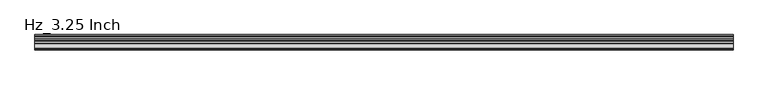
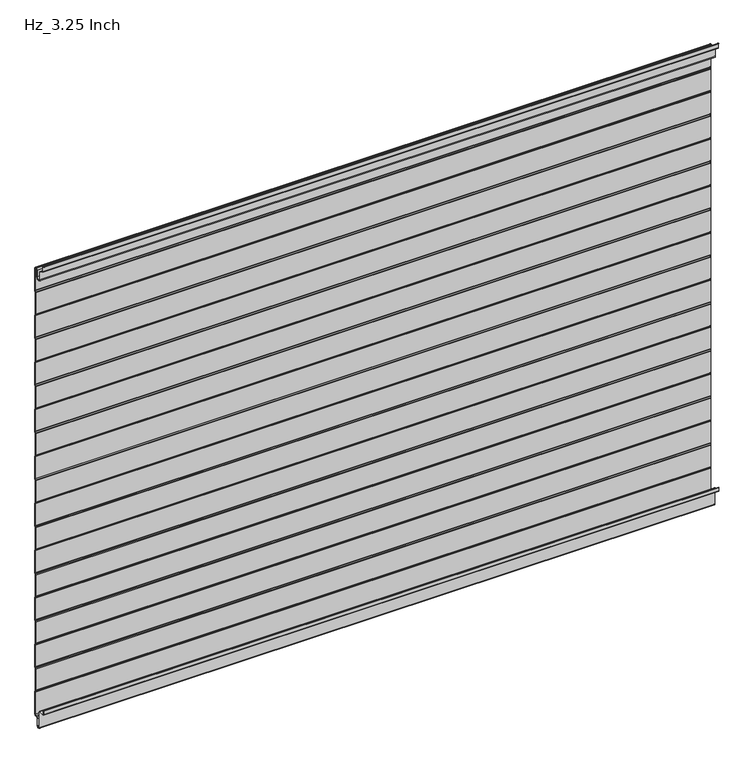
"""IFC4 building model written with IfcOpenShell, lengths in millimetres: plate geometry, KIP_R19_CP_KingSeam_Hz_Roof Panel : Hz_3.25 Inch."""

from ifc_helpers import new_model, si_unit, point, frame, frame_2d, origin, place, context, project, spatial, polyline, circle_curve, trimmed, segment, composite_curve, outline, extrude, source, transform, mapped, element, save


def hz_3_25_inch_be8fa6c4(model_context):
    return source(origin(), model_context, "Body", "SweptSolid", [
        extrude(outline(composite_curve([segment(polyline([(-32.0, 1.9842001), (-32.0, 9.4842001), (-31.2, 9.4842001), (-31.2, 1.9842001)]), True, "CONTINUOUS"), segment(trimmed(circle_curve(frame_2d((-29.7, 1.9842001)), 1.5), [point((-31.2, 1.9842001))], [point((-29.7, 0.4842001))], True, "CARTESIAN"), True, "CONTINUOUS"), segment(polyline([(-29.7, 0.4842001), (-18.5, 0.4842001)]), True, "CONTINUOUS"), segment(trimmed(circle_curve(frame_2d((-18.5, -1.5157999)), 2.0), [point((-18.5, 0.4842001))], [point((-16.5, -1.5157999))], False, "CARTESIAN"), True, "CONTINUOUS"), segment(polyline([(-16.5, -1.5157999), (-16.5, -37.0157999)]), True, "CONTINUOUS"), segment(trimmed(circle_curve(frame_2d((-14.0, -37.0157999)), 2.5), [point((-16.5, -37.0157999))], [point((-14.0, -39.5157999))], True, "CARTESIAN"), True, "CONTINUOUS"), segment(polyline([(-14.0, -39.5157999), (-12.0, -39.5157999)]), True, "CONTINUOUS"), segment(trimmed(circle_curve(frame_2d((-12.0, -37.0157999)), 2.5), [point((-12.0, -39.5157999))], [point((-9.5, -37.0157999))], True, "CARTESIAN"), True, "CONTINUOUS"), segment(polyline([(-9.5, -37.0157999), (-9.5, -21.3000002)]), True, "CONTINUOUS"), segment(trimmed(circle_curve(frame_2d((-6.5, -21.3000002)), 3.0), [point((-9.5, -21.3000002))], [point((-6.5, -18.3000002))], False, "CARTESIAN"), True, "CONTINUOUS"), segment(polyline([(-6.5, -18.3000002), (-3.0, -18.3000002)]), True, "CONTINUOUS"), segment(trimmed(circle_curve(frame_2d((-2.8161925, -16.2437508)), 2.0644483), [point((-3.0, -18.3000002))], [point((-0.8, -15.8000002))], True, "CARTESIAN"), True, "CONTINUOUS"), segment(polyline([(-0.8, -15.8000002), (-0.8, 33.9573224)]), True, "CONTINUOUS"), segment(trimmed(circle_curve(frame_2d((-3.2, 33.9573224)), 2.4), [point((-0.8, 33.9573224))], [point((-0.9968123, 34.9091437))], True, "CARTESIAN"), True, "CONTINUOUS"), segment(polyline([(-0.9968123, 34.9091437), (-2.0293831, 37.2992429)]), True, "CONTINUOUS"), segment(trimmed(circle_curve(frame_2d((1.0, 38.6079973)), 3.3), [point((-2.0293831, 37.2992429))], [point((-2.3, 38.6079973))], False, "CARTESIAN"), True, "CONTINUOUS"), segment(polyline([(-2.3, 38.6079973), (-2.3, 86.9920024)]), True, "CONTINUOUS"), segment(trimmed(circle_curve(frame_2d((1.0, 86.9920024)), 3.3), [point((-2.3, 86.9920024))], [point((-2.0293831, 88.3007568))], False, "CARTESIAN"), True, "CONTINUOUS"), segment(polyline([(-2.0293831, 88.3007568), (-0.9968123, 90.690856)]), True, "CONTINUOUS"), segment(trimmed(circle_curve(frame_2d((-3.2, 91.6426773)), 2.4), [point((-0.9968123, 90.690856))], [point((-0.8, 91.6426773))], True, "CARTESIAN"), True, "CONTINUOUS"), segment(polyline([(-0.8, 91.6426773), (-0.8, 140.5573224)]), True, "CONTINUOUS"), segment(trimmed(circle_curve(frame_2d((-3.2, 140.5573224)), 2.4), [point((-0.8, 140.5573224))], [point((-0.9968123, 141.5091437))], True, "CARTESIAN"), True, "CONTINUOUS"), segment(polyline([(-0.9968123, 141.5091437), (-2.0293831, 143.8992429)]), True, "CONTINUOUS"), segment(trimmed(circle_curve(frame_2d((1.0, 145.2079973)), 3.3), [point((-2.0293831, 143.8992429))], [point((-2.3, 145.2079973))], False, "CARTESIAN"), True, "CONTINUOUS"), segment(polyline([(-2.3, 145.2079973), (-2.3, 193.5920024)]), True, "CONTINUOUS"), segment(trimmed(circle_curve(frame_2d((1.0, 193.5920024)), 3.3), [point((-2.3, 193.5920024))], [point((-2.0293831, 194.9007568))], False, "CARTESIAN"), True, "CONTINUOUS"), segment(polyline([(-2.0293831, 194.9007568), (-0.9968123, 197.290856)]), True, "CONTINUOUS"), segment(trimmed(circle_curve(frame_2d((-3.2, 198.2426773)), 2.4), [point((-0.9968123, 197.290856))], [point((-0.8, 198.2426773))], True, "CARTESIAN"), True, "CONTINUOUS"), segment(polyline([(-0.8, 198.2426773), (-0.8, 247.1573224)]), True, "CONTINUOUS"), segment(trimmed(circle_curve(frame_2d((-3.2, 247.1573224)), 2.4), [point((-0.8, 247.1573224))], [point((-0.9968123, 248.1091437))], True, "CARTESIAN"), True, "CONTINUOUS"), segment(polyline([(-0.9968123, 248.1091437), (-2.0293831, 250.4992429)]), True, "CONTINUOUS"), segment(trimmed(circle_curve(frame_2d((1.0, 251.8079973)), 3.3), [point((-2.0293831, 250.4992429))], [point((-2.3, 251.8079973))], False, "CARTESIAN"), True, "CONTINUOUS"), segment(polyline([(-2.3, 251.8079973), (-2.3, 300.1920024)]), True, "CONTINUOUS"), segment(trimmed(circle_curve(frame_2d((1.0, 300.1920024)), 3.3), [point((-2.3, 300.1920024))], [point((-2.0293831, 301.5007568))], False, "CARTESIAN"), True, "CONTINUOUS"), segment(polyline([(-2.0293831, 301.5007568), (-0.9968123, 303.890856)]), True, "CONTINUOUS"), segment(trimmed(circle_curve(frame_2d((-3.2, 304.8426773)), 2.4), [point((-0.9968123, 303.890856))], [point((-0.8, 304.8426773))], True, "CARTESIAN"), True, "CONTINUOUS"), segment(polyline([(-0.8, 304.8426773), (-0.8, 353.7573224)]), True, "CONTINUOUS"), segment(trimmed(circle_curve(frame_2d((-3.2, 353.7573224)), 2.4), [point((-0.8, 353.7573224))], [point((-0.9968123, 354.7091437))], True, "CARTESIAN"), True, "CONTINUOUS"), segment(polyline([(-0.9968123, 354.7091437), (-2.0293831, 357.0992429)]), True, "CONTINUOUS"), segment(trimmed(circle_curve(frame_2d((1.0, 358.4079973)), 3.3), [point((-2.0293831, 357.0992429))], [point((-2.3, 358.4079973))], False, "CARTESIAN"), True, "CONTINUOUS"), segment(polyline([(-2.3, 358.4079973), (-2.3, 406.7920024)]), True, "CONTINUOUS"), segment(trimmed(circle_curve(frame_2d((1.0, 406.7920024)), 3.3), [point((-2.3, 406.7920024))], [point((-2.0293831, 408.1007568))], False, "CARTESIAN"), True, "CONTINUOUS"), segment(polyline([(-2.0293831, 408.1007568), (-0.9968123, 410.490856)]), True, "CONTINUOUS"), segment(trimmed(circle_curve(frame_2d((-3.2, 411.4426773)), 2.4), [point((-0.9968123, 410.490856))], [point((-0.8, 411.4426773))], True, "CARTESIAN"), True, "CONTINUOUS"), segment(polyline([(-0.8, 411.4426773), (-0.8, 460.3573224)]), True, "CONTINUOUS"), segment(trimmed(circle_curve(frame_2d((-3.2, 460.3573224)), 2.4), [point((-0.8, 460.3573224))], [point((-0.9968123, 461.3091437))], True, "CARTESIAN"), True, "CONTINUOUS"), segment(polyline([(-0.9968123, 461.3091437), (-2.0293831, 463.6992429)]), True, "CONTINUOUS"), segment(trimmed(circle_curve(frame_2d((1.0, 465.0079973)), 3.3), [point((-2.0293831, 463.6992429))], [point((-2.3, 465.0079973))], False, "CARTESIAN"), True, "CONTINUOUS"), segment(polyline([(-2.3, 465.0079973), (-2.3, 513.3920024)]), True, "CONTINUOUS"), segment(trimmed(circle_curve(frame_2d((1.0, 513.3920024)), 3.3), [point((-2.3, 513.3920024))], [point((-2.0293831, 514.7007568))], False, "CARTESIAN"), True, "CONTINUOUS"), segment(polyline([(-2.0293831, 514.7007568), (-0.9968123, 517.090856)]), True, "CONTINUOUS"), segment(trimmed(circle_curve(frame_2d((-3.2, 518.0426773)), 2.4), [point((-0.9968123, 517.090856))], [point((-0.8, 518.0426773))], True, "CARTESIAN"), True, "CONTINUOUS"), segment(polyline([(-0.8, 518.0426773), (-0.8, 566.9573224)]), True, "CONTINUOUS"), segment(trimmed(circle_curve(frame_2d((-3.2, 566.9573224)), 2.4), [point((-0.8, 566.9573224))], [point((-0.9968123, 567.9091437))], True, "CARTESIAN"), True, "CONTINUOUS"), segment(polyline([(-0.9968123, 567.9091437), (-2.0293831, 570.2992429)]), True, "CONTINUOUS"), segment(trimmed(circle_curve(frame_2d((1.0, 571.6079973)), 3.3), [point((-2.0293831, 570.2992429))], [point((-2.3, 571.6079973))], False, "CARTESIAN"), True, "CONTINUOUS"), segment(polyline([(-2.3, 571.6079973), (-2.3, 619.9920024)]), True, "CONTINUOUS"), segment(trimmed(circle_curve(frame_2d((1.0, 619.9920024)), 3.3), [point((-2.3, 619.9920024))], [point((-2.0293831, 621.3007568))], False, "CARTESIAN"), True, "CONTINUOUS"), segment(polyline([(-2.0293831, 621.3007568), (-0.9968123, 623.690856)]), True, "CONTINUOUS"), segment(trimmed(circle_curve(frame_2d((-3.2, 624.6426773)), 2.4), [point((-0.9968123, 623.690856))], [point((-0.8, 624.6426773))], True, "CARTESIAN"), True, "CONTINUOUS"), segment(polyline([(-0.8, 624.6426773), (-0.8, 673.5573224)]), True, "CONTINUOUS"), segment(trimmed(circle_curve(frame_2d((-3.2, 673.5573224)), 2.4), [point((-0.8, 673.5573224))], [point((-0.9968123, 674.5091437))], True, "CARTESIAN"), True, "CONTINUOUS"), segment(polyline([(-0.9968123, 674.5091437), (-2.0293831, 676.8992429)]), True, "CONTINUOUS"), segment(trimmed(circle_curve(frame_2d((1.0, 678.2079973)), 3.3), [point((-2.0293831, 676.8992429))], [point((-2.3, 678.2079973))], False, "CARTESIAN"), True, "CONTINUOUS"), segment(polyline([(-2.3, 678.2079973), (-2.3, 726.5920024)]), True, "CONTINUOUS"), segment(trimmed(circle_curve(frame_2d((1.0, 726.5920024)), 3.3), [point((-2.3, 726.5920024))], [point((-2.0293831, 727.9007568))], False, "CARTESIAN"), True, "CONTINUOUS"), segment(polyline([(-2.0293831, 727.9007568), (-0.9968123, 730.290856)]), True, "CONTINUOUS"), segment(trimmed(circle_curve(frame_2d((-3.2, 731.2426773)), 2.4), [point((-0.9968123, 730.290856))], [point((-0.8, 731.2426773))], True, "CARTESIAN"), True, "CONTINUOUS"), segment(polyline([(-0.8, 731.2426773), (-0.8, 780.1573224)]), True, "CONTINUOUS"), segment(trimmed(circle_curve(frame_2d((-3.2, 780.1573224)), 2.4), [point((-0.8, 780.1573224))], [point((-0.9968123, 781.1091437))], True, "CARTESIAN"), True, "CONTINUOUS"), segment(polyline([(-0.9968123, 781.1091437), (-2.0293831, 783.4992429)]), True, "CONTINUOUS"), segment(trimmed(circle_curve(frame_2d((1.0, 784.8079973)), 3.3), [point((-2.0293831, 783.4992429))], [point((-2.3, 784.8079973))], False, "CARTESIAN"), True, "CONTINUOUS"), segment(polyline([(-2.3, 784.8079973), (-2.3, 833.1920024)]), True, "CONTINUOUS"), segment(trimmed(circle_curve(frame_2d((1.0, 833.1920024)), 3.3), [point((-2.3, 833.1920024))], [point((-2.0293831, 834.5007568))], False, "CARTESIAN"), True, "CONTINUOUS"), segment(polyline([(-2.0293831, 834.5007568), (-0.9968123, 836.890856)]), True, "CONTINUOUS"), segment(trimmed(circle_curve(frame_2d((-3.2, 837.8426773)), 2.4), [point((-0.9968123, 836.890856))], [point((-0.8, 837.8426773))], True, "CARTESIAN"), True, "CONTINUOUS"), segment(polyline([(-0.8, 837.8426773), (-0.8, 886.7573224)]), True, "CONTINUOUS"), segment(trimmed(circle_curve(frame_2d((-3.2, 886.7573224)), 2.4), [point((-0.8, 886.7573224))], [point((-0.9968123, 887.7091437))], True, "CARTESIAN"), True, "CONTINUOUS"), segment(polyline([(-0.9968123, 887.7091437), (-2.0293831, 890.0992429)]), True, "CONTINUOUS"), segment(trimmed(circle_curve(frame_2d((1.0, 891.4079973)), 3.3), [point((-2.0293831, 890.0992429))], [point((-2.3, 891.4079973))], False, "CARTESIAN"), True, "CONTINUOUS"), segment(polyline([(-2.3, 891.4079973), (-2.3, 939.7920024)]), True, "CONTINUOUS"), segment(trimmed(circle_curve(frame_2d((1.0, 939.7920024)), 3.3), [point((-2.3, 939.7920024))], [point((-2.0293831, 941.1007568))], False, "CARTESIAN"), True, "CONTINUOUS"), segment(polyline([(-2.0293831, 941.1007568), (-0.9968123, 943.490856)]), True, "CONTINUOUS"), segment(trimmed(circle_curve(frame_2d((-3.2, 944.4426773)), 2.4), [point((-0.9968123, 943.490856))], [point((-0.8, 944.4426773))], True, "CARTESIAN"), True, "CONTINUOUS"), segment(polyline([(-0.8, 944.4426773), (-0.8, 994.1999998)]), True, "CONTINUOUS"), segment(trimmed(circle_curve(frame_2d((-2.8161925, 994.6437505)), 2.0644483), [point((-0.8, 994.1999998))], [point((-3.0, 996.6999998))], True, "CARTESIAN"), True, "CONTINUOUS"), segment(polyline([(-3.0, 996.6999998), (-5.0, 996.6999998)]), True, "CONTINUOUS"), segment(trimmed(circle_curve(frame_2d((-5.0, 994.1999998)), 2.5), [point((-5.0, 996.6999998))], [point((-7.5, 994.1999998))], True, "CARTESIAN"), True, "CONTINUOUS"), segment(polyline([(-7.5, 994.1999998), (-7.5, 979.2342001)]), True, "CONTINUOUS"), segment(trimmed(circle_curve(frame_2d((-12.25, 979.2342001)), 4.75), [point((-7.5, 979.2342001))], [point((-12.25, 974.4842001))], False, "CARTESIAN"), True, "CONTINUOUS"), segment(polyline([(-12.25, 974.4842001), (-13.75, 974.4842001)]), True, "CONTINUOUS"), segment(trimmed(circle_curve(frame_2d((-13.75, 979.2342001)), 4.75), [point((-13.75, 974.4842001))], [point((-18.5, 979.2342001))], False, "CARTESIAN"), True, "CONTINUOUS"), segment(polyline([(-18.5, 979.2342001), (-18.5, 996.3355451)]), True, "CONTINUOUS"), segment(trimmed(circle_curve(frame_2d((-19.5, 996.3355451)), 1.0), [point((-18.5, 996.3355451))], [point((-18.9986398, 997.2007838))], True, "CARTESIAN"), True, "CONTINUOUS"), segment(polyline([(-18.9986398, 997.2007838), (-28.7691578, 1002.8622845)]), True, "CONTINUOUS"), segment(trimmed(circle_curve(frame_2d((-27.7664374, 1004.5927618)), 2.0), [point((-28.7691578, 1002.8622845))], [point((-29.7664374, 1004.5927618))], False, "CARTESIAN"), True, "CONTINUOUS"), segment(polyline([(-29.7664374, 1004.5927618), (-29.7664374, 1014.1841999)]), True, "CONTINUOUS"), segment(trimmed(circle_curve(frame_2d((-30.7664374, 1014.1841999)), 1.0), [point((-29.7664374, 1014.1841999))], [point((-30.7664374, 1015.1841999))], True, "CARTESIAN"), True, "CONTINUOUS"), segment(polyline([(-30.7664374, 1015.1841999), (-32.0, 1015.1841999), (-32.0, 1015.9841999), (-30.7664374, 1015.9841999)]), True, "CONTINUOUS"), segment(trimmed(circle_curve(frame_2d((-30.7664374, 1014.4841999)), 1.5), [point((-30.7664374, 1015.9841999))], [point((-29.2664374, 1014.4841999))], False, "CARTESIAN"), True, "CONTINUOUS"), segment(polyline([(-29.2664374, 1014.4841999), (-29.2664374, 1004.5927618)]), True, "CONTINUOUS"), segment(trimmed(circle_curve(frame_2d((-27.7664374, 1004.5927618)), 1.5), [point((-29.2664374, 1004.5927618))], [point((-28.5184777, 1003.2949038))], True, "CARTESIAN"), True, "CONTINUOUS"), segment(polyline([(-28.5184777, 1003.2949038), (-18.7479596, 997.6334031)]), True, "CONTINUOUS"), segment(trimmed(circle_curve(frame_2d((-19.5, 996.3355451)), 1.5), [point((-18.7479596, 997.6334031))], [point((-18.0, 996.3355451))], False, "CARTESIAN"), True, "CONTINUOUS"), segment(polyline([(-18.0, 996.3355451), (-18.0, 979.2342001)]), True, "CONTINUOUS"), segment(trimmed(circle_curve(frame_2d((-13.75, 979.2342001)), 4.25), [point((-18.0, 979.2342001))], [point((-13.75, 974.9842001))], True, "CARTESIAN"), True, "CONTINUOUS"), segment(polyline([(-13.75, 974.9842001), (-12.25, 974.9842001)]), True, "CONTINUOUS"), segment(trimmed(circle_curve(frame_2d((-12.25, 979.2342001)), 4.25), [point((-12.25, 974.9842001))], [point((-8.0, 979.2342001))], True, "CARTESIAN"), True, "CONTINUOUS"), segment(polyline([(-8.0, 979.2342001), (-8.0, 994.1999998)]), True, "CONTINUOUS"), segment(trimmed(circle_curve(frame_2d((-5.0, 994.1999998)), 3.0), [point((-8.0, 994.1999998))], [point((-5.0, 997.1999998))], False, "CARTESIAN"), True, "CONTINUOUS"), segment(polyline([(-5.0, 997.1999998), (-3.0, 997.1999998)]), True, "CONTINUOUS"), segment(trimmed(circle_curve(frame_2d((-3.0, 994.1999998)), 3.0), [point((-3.0, 997.1999998))], [point((0.0, 994.1999998))], False, "CARTESIAN"), True, "CONTINUOUS"), segment(polyline([(0.0, 994.1999998), (0.0, 944.4426773)]), True, "CONTINUOUS"), segment(trimmed(circle_curve(frame_2d((-3.2, 944.4426773)), 3.2), [point((0.0, 944.4426773))], [point((-0.2624164, 943.1735822))], False, "CARTESIAN"), True, "CONTINUOUS"), segment(polyline([(-0.2624164, 943.1735822), (-1.2949872, 940.783483)]), True, "CONTINUOUS"), segment(trimmed(circle_curve(frame_2d((1.0, 939.7920024)), 2.5), [point((-1.2949872, 940.783483))], [point((-1.5, 939.7920024))], True, "CARTESIAN"), True, "CONTINUOUS"), segment(polyline([(-1.5, 939.7920024), (-1.5, 891.4079973)]), True, "CONTINUOUS"), segment(trimmed(circle_curve(frame_2d((1.0, 891.4079973)), 2.5), [point((-1.5, 891.4079973))], [point((-1.2949872, 890.4165167))], True, "CARTESIAN"), True, "CONTINUOUS"), segment(polyline([(-1.2949872, 890.4165167), (-0.2624164, 888.0264175)]), True, "CONTINUOUS"), segment(trimmed(circle_curve(frame_2d((-3.2, 886.7573224)), 3.2), [point((-0.2624164, 888.0264175))], [point((0.0, 886.7573224))], False, "CARTESIAN"), True, "CONTINUOUS"), segment(polyline([(0.0, 886.7573224), (0.0, 837.8426773)]), True, "CONTINUOUS"), segment(trimmed(circle_curve(frame_2d((-3.2, 837.8426773)), 3.2), [point((0.0, 837.8426773))], [point((-0.2624164, 836.5735822))], False, "CARTESIAN"), True, "CONTINUOUS"), segment(polyline([(-0.2624164, 836.5735822), (-1.2949872, 834.183483)]), True, "CONTINUOUS"), segment(trimmed(circle_curve(frame_2d((1.0, 833.1920024)), 2.5), [point((-1.2949872, 834.183483))], [point((-1.5, 833.1920024))], True, "CARTESIAN"), True, "CONTINUOUS"), segment(polyline([(-1.5, 833.1920024), (-1.5, 784.8079973)]), True, "CONTINUOUS"), segment(trimmed(circle_curve(frame_2d((1.0, 784.8079973)), 2.5), [point((-1.5, 784.8079973))], [point((-1.2949872, 783.8165167))], True, "CARTESIAN"), True, "CONTINUOUS"), segment(polyline([(-1.2949872, 783.8165167), (-0.2624164, 781.4264175)]), True, "CONTINUOUS"), segment(trimmed(circle_curve(frame_2d((-3.2, 780.1573224)), 3.2), [point((-0.2624164, 781.4264175))], [point((0.0, 780.1573224))], False, "CARTESIAN"), True, "CONTINUOUS"), segment(polyline([(0.0, 780.1573224), (0.0, 731.2426773)]), True, "CONTINUOUS"), segment(trimmed(circle_curve(frame_2d((-3.2, 731.2426773)), 3.2), [point((0.0, 731.2426773))], [point((-0.2624164, 729.9735822))], False, "CARTESIAN"), True, "CONTINUOUS"), segment(polyline([(-0.2624164, 729.9735822), (-1.2949872, 727.583483)]), True, "CONTINUOUS"), segment(trimmed(circle_curve(frame_2d((1.0, 726.5920024)), 2.5), [point((-1.2949872, 727.583483))], [point((-1.5, 726.5920024))], True, "CARTESIAN"), True, "CONTINUOUS"), segment(polyline([(-1.5, 726.5920024), (-1.5, 678.2079973)]), True, "CONTINUOUS"), segment(trimmed(circle_curve(frame_2d((1.0, 678.2079973)), 2.5), [point((-1.5, 678.2079973))], [point((-1.2949872, 677.2165167))], True, "CARTESIAN"), True, "CONTINUOUS"), segment(polyline([(-1.2949872, 677.2165167), (-0.2624164, 674.8264175)]), True, "CONTINUOUS"), segment(trimmed(circle_curve(frame_2d((-3.2, 673.5573224)), 3.2), [point((-0.2624164, 674.8264175))], [point((0.0, 673.5573224))], False, "CARTESIAN"), True, "CONTINUOUS"), segment(polyline([(0.0, 673.5573224), (0.0, 624.6426773)]), True, "CONTINUOUS"), segment(trimmed(circle_curve(frame_2d((-3.2, 624.6426773)), 3.2), [point((0.0, 624.6426773))], [point((-0.2624164, 623.3735822))], False, "CARTESIAN"), True, "CONTINUOUS"), segment(polyline([(-0.2624164, 623.3735822), (-1.2949872, 620.983483)]), True, "CONTINUOUS"), segment(trimmed(circle_curve(frame_2d((1.0, 619.9920024)), 2.5), [point((-1.2949872, 620.983483))], [point((-1.5, 619.9920024))], True, "CARTESIAN"), True, "CONTINUOUS"), segment(polyline([(-1.5, 619.9920024), (-1.5, 571.6079973)]), True, "CONTINUOUS"), segment(trimmed(circle_curve(frame_2d((1.0, 571.6079973)), 2.5), [point((-1.5, 571.6079973))], [point((-1.2949872, 570.6165167))], True, "CARTESIAN"), True, "CONTINUOUS"), segment(polyline([(-1.2949872, 570.6165167), (-0.2624164, 568.2264175)]), True, "CONTINUOUS"), segment(trimmed(circle_curve(frame_2d((-3.2, 566.9573224)), 3.2), [point((-0.2624164, 568.2264175))], [point((0.0, 566.9573224))], False, "CARTESIAN"), True, "CONTINUOUS"), segment(polyline([(0.0, 566.9573224), (0.0, 518.0426773)]), True, "CONTINUOUS"), segment(trimmed(circle_curve(frame_2d((-3.2, 518.0426773)), 3.2), [point((0.0, 518.0426773))], [point((-0.2624164, 516.7735822))], False, "CARTESIAN"), True, "CONTINUOUS"), segment(polyline([(-0.2624164, 516.7735822), (-1.2949872, 514.383483)]), True, "CONTINUOUS"), segment(trimmed(circle_curve(frame_2d((1.0, 513.3920024)), 2.5), [point((-1.2949872, 514.383483))], [point((-1.5, 513.3920024))], True, "CARTESIAN"), True, "CONTINUOUS"), segment(polyline([(-1.5, 513.3920024), (-1.5, 465.0079973)]), True, "CONTINUOUS"), segment(trimmed(circle_curve(frame_2d((1.0, 465.0079973)), 2.5), [point((-1.5, 465.0079973))], [point((-1.2949872, 464.0165167))], True, "CARTESIAN"), True, "CONTINUOUS"), segment(polyline([(-1.2949872, 464.0165167), (-0.2624164, 461.6264175)]), True, "CONTINUOUS"), segment(trimmed(circle_curve(frame_2d((-3.2, 460.3573224)), 3.2), [point((-0.2624164, 461.6264175))], [point((0.0, 460.3573224))], False, "CARTESIAN"), True, "CONTINUOUS"), segment(polyline([(0.0, 460.3573224), (0.0, 411.4426773)]), True, "CONTINUOUS"), segment(trimmed(circle_curve(frame_2d((-3.2, 411.4426773)), 3.2), [point((0.0, 411.4426773))], [point((-0.2624164, 410.1735822))], False, "CARTESIAN"), True, "CONTINUOUS"), segment(polyline([(-0.2624164, 410.1735822), (-1.2949872, 407.783483)]), True, "CONTINUOUS"), segment(trimmed(circle_curve(frame_2d((1.0, 406.7920024)), 2.5), [point((-1.2949872, 407.783483))], [point((-1.5, 406.7920024))], True, "CARTESIAN"), True, "CONTINUOUS"), segment(polyline([(-1.5, 406.7920024), (-1.5, 358.4079973)]), True, "CONTINUOUS"), segment(trimmed(circle_curve(frame_2d((1.0, 358.4079973)), 2.5), [point((-1.5, 358.4079973))], [point((-1.2949872, 357.4165167))], True, "CARTESIAN"), True, "CONTINUOUS"), segment(polyline([(-1.2949872, 357.4165167), (-0.2624164, 355.0264175)]), True, "CONTINUOUS"), segment(trimmed(circle_curve(frame_2d((-3.2, 353.7573224)), 3.2), [point((-0.2624164, 355.0264175))], [point((0.0, 353.7573224))], False, "CARTESIAN"), True, "CONTINUOUS"), segment(polyline([(0.0, 353.7573224), (0.0, 304.8426773)]), True, "CONTINUOUS"), segment(trimmed(circle_curve(frame_2d((-3.2, 304.8426773)), 3.2), [point((0.0, 304.8426773))], [point((-0.2624164, 303.5735822))], False, "CARTESIAN"), True, "CONTINUOUS"), segment(polyline([(-0.2624164, 303.5735822), (-1.2949872, 301.183483)]), True, "CONTINUOUS"), segment(trimmed(circle_curve(frame_2d((1.0, 300.1920024)), 2.5), [point((-1.2949872, 301.183483))], [point((-1.5, 300.1920024))], True, "CARTESIAN"), True, "CONTINUOUS"), segment(polyline([(-1.5, 300.1920024), (-1.5, 251.8079973)]), True, "CONTINUOUS"), segment(trimmed(circle_curve(frame_2d((1.0, 251.8079973)), 2.5), [point((-1.5, 251.8079973))], [point((-1.2949872, 250.8165167))], True, "CARTESIAN"), True, "CONTINUOUS"), segment(polyline([(-1.2949872, 250.8165167), (-0.2624164, 248.4264175)]), True, "CONTINUOUS"), segment(trimmed(circle_curve(frame_2d((-3.2, 247.1573224)), 3.2), [point((-0.2624164, 248.4264175))], [point((0.0, 247.1573224))], False, "CARTESIAN"), True, "CONTINUOUS"), segment(polyline([(0.0, 247.1573224), (0.0, 198.2426773)]), True, "CONTINUOUS"), segment(trimmed(circle_curve(frame_2d((-3.2, 198.2426773)), 3.2), [point((0.0, 198.2426773))], [point((-0.2624164, 196.9735822))], False, "CARTESIAN"), True, "CONTINUOUS"), segment(polyline([(-0.2624164, 196.9735822), (-1.2949872, 194.583483)]), True, "CONTINUOUS"), segment(trimmed(circle_curve(frame_2d((1.0, 193.5920024)), 2.5), [point((-1.2949872, 194.583483))], [point((-1.5, 193.5920024))], True, "CARTESIAN"), True, "CONTINUOUS"), segment(polyline([(-1.5, 193.5920024), (-1.5, 145.2079973)]), True, "CONTINUOUS"), segment(trimmed(circle_curve(frame_2d((1.0, 145.2079973)), 2.5), [point((-1.5, 145.2079973))], [point((-1.2949872, 144.2165167))], True, "CARTESIAN"), True, "CONTINUOUS"), segment(polyline([(-1.2949872, 144.2165167), (-0.2624164, 141.8264175)]), True, "CONTINUOUS"), segment(trimmed(circle_curve(frame_2d((-3.2, 140.5573224)), 3.2), [point((-0.2624164, 141.8264175))], [point((0.0, 140.5573224))], False, "CARTESIAN"), True, "CONTINUOUS"), segment(polyline([(0.0, 140.5573224), (0.0, 91.6426773)]), True, "CONTINUOUS"), segment(trimmed(circle_curve(frame_2d((-3.2, 91.6426773)), 3.2), [point((0.0, 91.6426773))], [point((-0.2624164, 90.3735822))], False, "CARTESIAN"), True, "CONTINUOUS"), segment(polyline([(-0.2624164, 90.3735822), (-1.2949872, 87.983483)]), True, "CONTINUOUS"), segment(trimmed(circle_curve(frame_2d((1.0, 86.9920024)), 2.5), [point((-1.2949872, 87.983483))], [point((-1.5, 86.9920024))], True, "CARTESIAN"), True, "CONTINUOUS"), segment(polyline([(-1.5, 86.9920024), (-1.5, 38.6079973)]), True, "CONTINUOUS"), segment(trimmed(circle_curve(frame_2d((1.0, 38.6079973)), 2.5), [point((-1.5, 38.6079973))], [point((-1.2949872, 37.6165167))], True, "CARTESIAN"), True, "CONTINUOUS"), segment(polyline([(-1.2949872, 37.6165167), (-0.2624164, 35.2264175)]), True, "CONTINUOUS"), segment(trimmed(circle_curve(frame_2d((-3.2, 33.9573224)), 3.2), [point((-0.2624164, 35.2264175))], [point((0.0, 33.9573224))], False, "CARTESIAN"), True, "CONTINUOUS"), segment(polyline([(0.0, 33.9573224), (0.0, -15.8000002)]), True, "CONTINUOUS"), segment(trimmed(circle_curve(frame_2d((-3.0, -15.8000002)), 3.0), [point((0.0, -15.8000002))], [point((-3.0, -18.8000002))], False, "CARTESIAN"), True, "CONTINUOUS"), segment(polyline([(-3.0, -18.8000002), (-6.5, -18.8000002)]), True, "CONTINUOUS"), segment(trimmed(circle_curve(frame_2d((-6.5, -21.3000002)), 2.5), [point((-6.5, -18.8000002))], [point((-9.0, -21.3000002))], True, "CARTESIAN"), True, "CONTINUOUS"), segment(polyline([(-9.0, -21.3000002), (-9.0, -37.0157999)]), True, "CONTINUOUS"), segment(trimmed(circle_curve(frame_2d((-12.0, -37.0157999)), 3.0), [point((-9.0, -37.0157999))], [point((-12.0, -40.0157999))], False, "CARTESIAN"), True, "CONTINUOUS"), segment(polyline([(-12.0, -40.0157999), (-14.0, -40.0157999)]), True, "CONTINUOUS"), segment(trimmed(circle_curve(frame_2d((-14.0, -37.0157999)), 3.0), [point((-14.0, -40.0157999))], [point((-17.0, -37.0157999))], False, "CARTESIAN"), True, "CONTINUOUS"), segment(polyline([(-17.0, -37.0157999), (-17.0, -1.5157999)]), True, "CONTINUOUS"), segment(trimmed(circle_curve(frame_2d((-18.5, -1.5157999)), 1.5), [point((-17.0, -1.5157999))], [point((-18.5, -0.0157999))], True, "CARTESIAN"), True, "CONTINUOUS"), segment(polyline([(-18.5, -0.0157999), (-30.0, -0.0157999)]), True, "CONTINUOUS"), segment(trimmed(circle_curve(frame_2d((-30.0, 1.9842001)), 2.0), [point((-30.0, -0.0157999))], [point((-32.0, 1.9842001))], False, "CARTESIAN"), True, "CONTINUOUS")], self_intersect=False)), frame((-723.9042608, 0.0, 0.0), z_axis=(1.0, 0.0, 0.0), x_axis=(0.0, 1.0, 0.0)), (0.0, 0.0, 1.0), 1447.8085217),
    ])


if __name__ == "__main__":
    model = new_model("IFC4")
    model_context = context("Model", 3, world=origin())
    ifc_project = project(units=[si_unit("LENGTHUNIT", "METRE", prefix="MILLI")], contexts=[model_context])
    site = spatial("IfcSite", under=ifc_project)
    building = spatial("IfcBuilding", under=site)
    placement = place(None, origin())
    hz_3_25_inch_shape = hz_3_25_inch_be8fa6c4(model_context)
    element("IfcPlate", 1, ObjectType="KIP_R19_CP_KingSeam_Hz_Roof Panel : Hz_3.25 Inch", at=placement, inside=building, context=model_context, shape_type="MappedRepresentation", body=[
        mapped(hz_3_25_inch_shape, transform((0.0, 0.0, 0.0), x_axis=(1.0, 0.0, 0.0), y_axis=(0.0, 1.0, 0.0), z_axis=(0.0, 0.0, 1.0))),
    ])
    save(model, "model.ifc")
